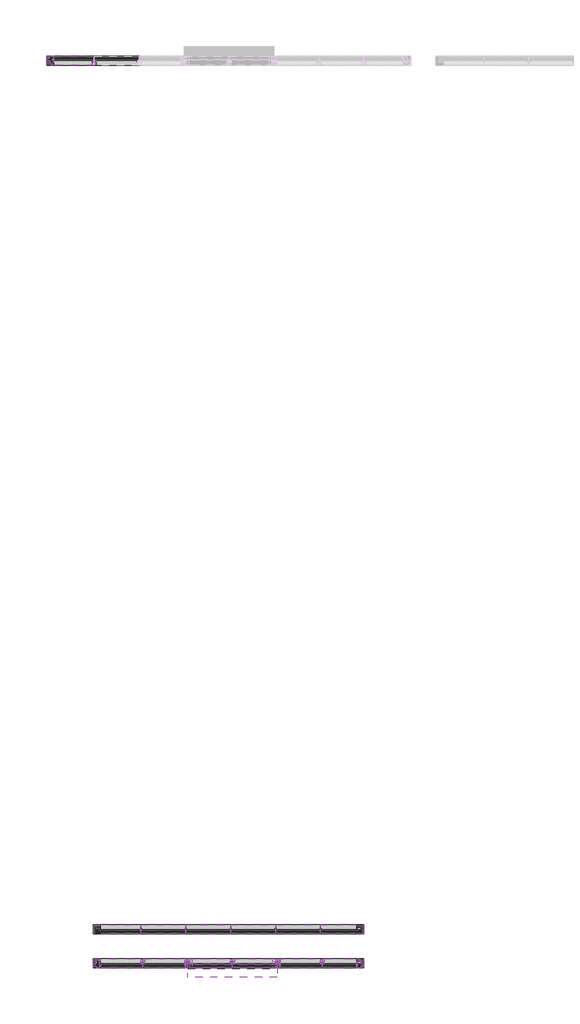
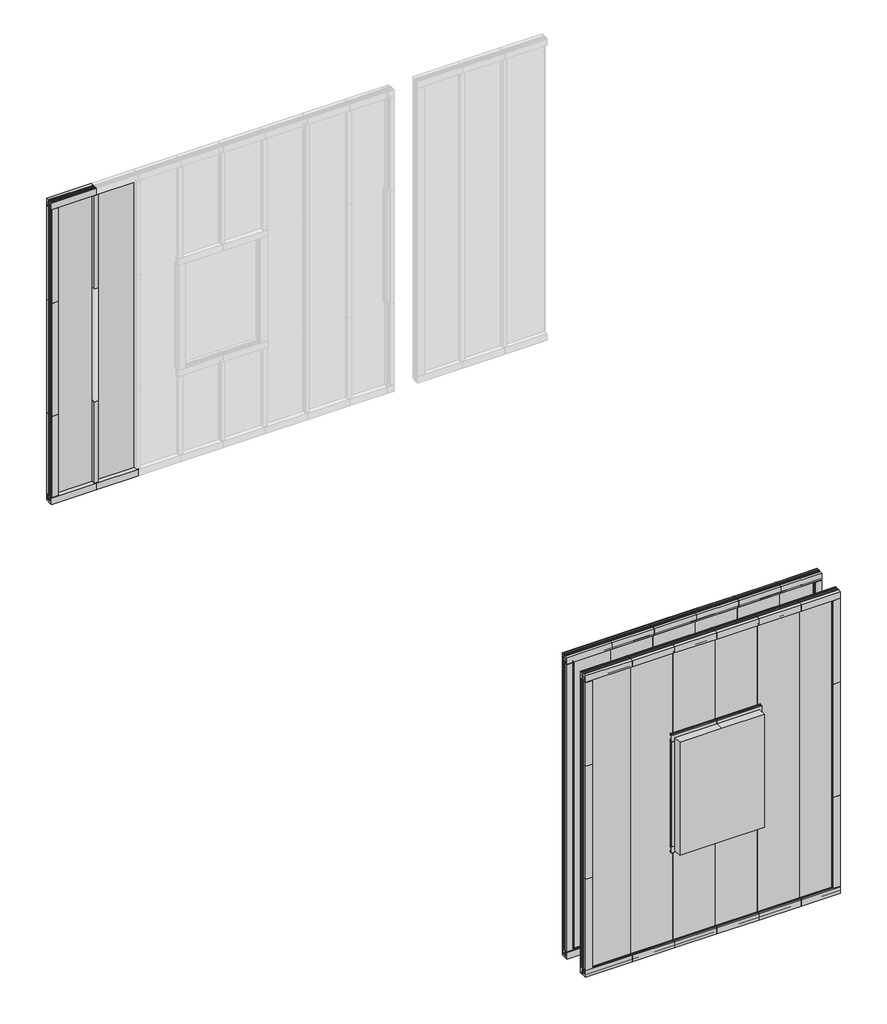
# One storey, part 1 of 2: 63 members, 17 plates.
"""IFC4 building model written with IfcOpenShell, lengths in millimetres."""

from ifc_helpers import new_model, si_unit, origin, place, context, project, spatial, transform, mapped, element, save
from components import rectangular_mullion_56370f76, rectangular_mullion_29f6557c, rectangular_mullion_5ac9c958, rectangular_mullion_ad8a2e70, rectangular_mullion_d8502604, rectangular_mullion_7f4c8c78, rectangular_mullion_d2c126c3, rectangular_mullion_4e418ae6, rectangular_mullion_074f1e92, rectangular_mullion_df59eadc, rectangular_mullion_0bb142bf, rectangular_mullion_5c33d273, rectangular_mullion_d28546ff, rectangular_mullion_ca9a3e23, rectangular_mullion_d4e17fa0, rectangular_mullion_b07ed6fc, rectangular_mullion_49af61fe, rectangular_mullion_012c2512, rectangular_mullion_15cd0707, rectangular_mullion_bf5c6ae6, rectangular_mullion_05272e8f, rectangular_mullion_a8a568d6, rectangular_mullion_99edbb54, rectangular_mullion_0c1c3824, rectangular_mullion_da8ff875, rectangular_mullion_25efc16a, plate_366c9034, plate_11f4e84c, plate_dcdef4b8, plate_09bead92, plate_f91dd126, plate_4c6f184a, plate_0ac376f9, plate_f3157e7b, empty_system_panel_empty_e7d6fffa

model = new_model("IFC4")

# Units and contexts
model_context = context("Model", 3, world=origin())
ifc_project = project(units=[si_unit("LENGTHUNIT", "METRE", prefix="MILLI")], contexts=[model_context])

# Site, building, storey
site = spatial("IfcSite", under=ifc_project)
building = spatial("IfcBuilding", under=site)
storey = spatial("IfcBuildingStorey", under=building, Name="Danpal - AIRPT", Elevation=0.0)

# Members
placement = place(None, origin())
rectangular_mullion_shape = rectangular_mullion_56370f76(model_context)
element("IfcMember", 1, ObjectType="Rectangular Mullion : Danpal_Airpt_End-Mullion_B1", at=placement, inside=storey, context=model_context, shape_type="MappedRepresentation", body=[
    mapped(rectangular_mullion_shape, transform((1250.65036, 2317.5512666, 0.0), x_axis=(0.0, 0.0, -1.0), y_axis=(0.0, -1.0, 0.0), z_axis=(-1.0, 0.0, 0.0))),
])
element("IfcMember", 2, ObjectType="Rectangular Mullion : Danpal_Airpt_End-Mullion_B1", at=placement, inside=storey, context=model_context, shape_type="MappedRepresentation", body=[
    mapped(rectangular_mullion_shape, transform((1780.85036, 2317.5512666, 0.0), x_axis=(0.0, 0.0, -1.0), y_axis=(0.0, -1.0, 0.0), z_axis=(-1.0, 0.0, 0.0))),
])
element("IfcMember", 3, ObjectType="Rectangular Mullion : Danpal_Airpt_End-Mullion_B1", at=placement, inside=storey, context=model_context, shape_type="MappedRepresentation", body=[
    mapped(rectangular_mullion_shape, transform((2311.05036, 2317.5512666, 0.0), x_axis=(0.0, 0.0, -1.0), y_axis=(0.0, -1.0, 0.0), z_axis=(-1.0, 0.0, 0.0))),
])
element("IfcMember", 4, ObjectType="Rectangular Mullion : Danpal_Airpt_End-Mullion_B1", at=placement, inside=storey, context=model_context, shape_type="MappedRepresentation", body=[
    mapped(rectangular_mullion_shape, transform((2841.25036, 2317.5512666, 0.0), x_axis=(0.0, 0.0, -1.0), y_axis=(0.0, -1.0, 0.0), z_axis=(-1.0, 0.0, 0.0))),
])
element("IfcMember", 5, ObjectType="Rectangular Mullion : Danpal_Airpt_End-Mullion_B1", at=placement, inside=storey, context=model_context, shape_type="MappedRepresentation", body=[
    mapped(rectangular_mullion_shape, transform((1229.6337657, 2717.5512666, 0.0), x_axis=(0.0, 0.0, -1.0), y_axis=(0.0, -1.0, 0.0), z_axis=(-1.0, 0.0, 0.0))),
])
element("IfcMember", 6, ObjectType="Rectangular Mullion : Danpal_Airpt_End-Mullion_B1", at=placement, inside=storey, context=model_context, shape_type="MappedRepresentation", body=[
    mapped(rectangular_mullion_shape, transform((1759.8337657, 2717.5512666, 0.0), x_axis=(0.0, 0.0, -1.0), y_axis=(0.0, -1.0, 0.0), z_axis=(-1.0, 0.0, 0.0))),
])
element("IfcMember", 7, ObjectType="Rectangular Mullion : Danpal_Airpt_End-Mullion_B1", at=placement, inside=storey, context=model_context, shape_type="MappedRepresentation", body=[
    mapped(rectangular_mullion_shape, transform((2290.0337657, 2717.5512666, 0.0), x_axis=(0.0, 0.0, -1.0), y_axis=(0.0, -1.0, 0.0), z_axis=(-1.0, 0.0, 0.0))),
])
element("IfcMember", 8, ObjectType="Rectangular Mullion : Danpal_Airpt_End-Mullion_B1", at=placement, inside=storey, context=model_context, shape_type="MappedRepresentation", body=[
    mapped(rectangular_mullion_shape, transform((2820.2337657, 2717.5512666, 0.0), x_axis=(0.0, 0.0, -1.0), y_axis=(0.0, -1.0, 0.0), z_axis=(-1.0, 0.0, 0.0))),
])
element("IfcMember", 9, ObjectType="Rectangular Mullion : Danpal_Airpt_End-Mullion_B2", at=placement, inside=storey, context=model_context, shape_type="MappedRepresentation", body=[
    mapped(rectangular_mullion_shape, transform((1780.85036, 2317.5512666, 4000.0), x_axis=(0.0, 0.0, 1.0), y_axis=(0.0, -1.0, 0.0), z_axis=(1.0, 0.0, 0.0))),
])
element("IfcMember", 10, ObjectType="Rectangular Mullion : Danpal_Airpt_End-Mullion_B2", at=placement, inside=storey, context=model_context, shape_type="MappedRepresentation", body=[
    mapped(rectangular_mullion_shape, transform((2311.05036, 2317.5512666, 4000.0), x_axis=(0.0, 0.0, 1.0), y_axis=(0.0, -1.0, 0.0), z_axis=(1.0, 0.0, 0.0))),
])
element("IfcMember", 11, ObjectType="Rectangular Mullion : Danpal_Airpt_End-Mullion_B2", at=placement, inside=storey, context=model_context, shape_type="MappedRepresentation", body=[
    mapped(rectangular_mullion_shape, transform((2841.25036, 2317.5512666, 4000.0), x_axis=(0.0, 0.0, 1.0), y_axis=(0.0, -1.0, 0.0), z_axis=(1.0, 0.0, 0.0))),
])
element("IfcMember", 12, ObjectType="Rectangular Mullion : Danpal_Airpt_End-Mullion_B2", at=placement, inside=storey, context=model_context, shape_type="MappedRepresentation", body=[
    mapped(rectangular_mullion_shape, transform((3371.45036, 2317.5512666, 4000.0), x_axis=(0.0, 0.0, 1.0), y_axis=(0.0, -1.0, 0.0), z_axis=(1.0, 0.0, 0.0))),
])
element("IfcMember", 13, ObjectType="Rectangular Mullion : Danpal_Airpt_End-Mullion_B2", at=placement, inside=storey, context=model_context, shape_type="MappedRepresentation", body=[
    mapped(rectangular_mullion_shape, transform((1759.8337657, 2717.5512666, 4000.0), x_axis=(0.0, 0.0, 1.0), y_axis=(0.0, -1.0, 0.0), z_axis=(1.0, 0.0, 0.0))),
])
element("IfcMember", 14, ObjectType="Rectangular Mullion : Danpal_Airpt_End-Mullion_B2", at=placement, inside=storey, context=model_context, shape_type="MappedRepresentation", body=[
    mapped(rectangular_mullion_shape, transform((2290.0337657, 2717.5512666, 4000.0), x_axis=(0.0, 0.0, 1.0), y_axis=(0.0, -1.0, 0.0), z_axis=(1.0, 0.0, 0.0))),
])
element("IfcMember", 15, ObjectType="Rectangular Mullion : Danpal_Airpt_End-Mullion_B2", at=placement, inside=storey, context=model_context, shape_type="MappedRepresentation", body=[
    mapped(rectangular_mullion_shape, transform((2820.2337657, 2717.5512666, 4000.0), x_axis=(0.0, 0.0, 1.0), y_axis=(0.0, -1.0, 0.0), z_axis=(1.0, 0.0, 0.0))),
])
element("IfcMember", 16, ObjectType="Rectangular Mullion : Danpal_Airpt_End-Mullion_B2", at=placement, inside=storey, context=model_context, shape_type="MappedRepresentation", body=[
    mapped(rectangular_mullion_shape, transform((3350.4337657, 2717.5512666, 4000.0), x_axis=(0.0, 0.0, 1.0), y_axis=(0.0, -1.0, 0.0), z_axis=(1.0, 0.0, 0.0))),
])
rectangular_mullion_2_shape = rectangular_mullion_29f6557c(model_context)
element("IfcMember", 17, ObjectType="Rectangular Mullion : Danpal_Airpt", at=placement, inside=storey, context=model_context, shape_type="MappedRepresentation", body=[
    mapped(rectangular_mullion_2_shape, transform((1250.65036, 2317.5512666, 2800.0), x_axis=(1.0, 0.0, 0.0), y_axis=(0.0, -1.0, 0.0), z_axis=(0.0, 0.0, -1.0))),
])
element("IfcMember", 18, ObjectType="Rectangular Mullion : Danpal_Airpt", at=placement, inside=storey, context=model_context, shape_type="MappedRepresentation", body=[
    mapped(rectangular_mullion_2_shape, transform((3371.45036, 2317.5512666, 2800.0), x_axis=(1.0, 0.0, 0.0), y_axis=(0.0, -1.0, 0.0), z_axis=(0.0, 0.0, -1.0))),
])
rectangular_mullion_3_shape = rectangular_mullion_5ac9c958(model_context)
element("IfcMember", 19, ObjectType="Rectangular Mullion : Danpal_Airpt_End-Mullion_B1", at=placement, inside=storey, context=model_context, shape_type="MappedRepresentation", body=[
    mapped(rectangular_mullion_3_shape, transform((664.2822678, 2317.5512666, 3908.6804098), x_axis=(-1.0, 0.0, 0.0), y_axis=(0.0, -1.0, 0.0), z_axis=(0.0, 0.0, 1.0))),
])
rectangular_mullion_4_shape = rectangular_mullion_ad8a2e70(model_context)
element("IfcMember", 20, ObjectType="Rectangular Mullion : Danpal_Airpt", at=placement, inside=storey, context=model_context, shape_type="MappedRepresentation", body=[
    mapped(rectangular_mullion_4_shape, transform((1250.65036, 2317.5512666, 91.3195902), x_axis=(1.0, 0.0, 0.0), y_axis=(0.0, -1.0, 0.0), z_axis=(0.0, 0.0, -1.0))),
])
element("IfcMember", 21, ObjectType="Rectangular Mullion : Danpal_Airpt", at=placement, inside=storey, context=model_context, shape_type="MappedRepresentation", body=[
    mapped(rectangular_mullion_4_shape, transform((3371.45036, 2317.5512666, 91.3195902), x_axis=(1.0, 0.0, 0.0), y_axis=(0.0, -1.0, 0.0), z_axis=(0.0, 0.0, -1.0))),
])
rectangular_mullion_5_shape = rectangular_mullion_d8502604(model_context)
element("IfcMember", 22, ObjectType="Rectangular Mullion : Danpal_Airpt", at=placement, inside=storey, context=model_context, shape_type="MappedRepresentation", body=[
    mapped(rectangular_mullion_5_shape, transform((1250.65036, 2317.5512666, 1300.0), x_axis=(1.0, 0.0, 0.0), y_axis=(0.0, -1.0, 0.0), z_axis=(0.0, 0.0, -1.0))),
])
element("IfcMember", 23, ObjectType="Rectangular Mullion : Danpal_Airpt", at=placement, inside=storey, context=model_context, shape_type="MappedRepresentation", body=[
    mapped(rectangular_mullion_5_shape, transform((3371.45036, 2317.5512666, 1300.0), x_axis=(1.0, 0.0, 0.0), y_axis=(0.0, -1.0, 0.0), z_axis=(0.0, 0.0, -1.0))),
])
rectangular_mullion_6_shape = rectangular_mullion_7f4c8c78(model_context)
element("IfcMember", 24, ObjectType="Rectangular Mullion : Danpal_Airpt_End-Mullion_B1", at=placement, inside=storey, context=model_context, shape_type="MappedRepresentation", body=[
    mapped(rectangular_mullion_6_shape, transform((664.2822678, 2317.5512666, 2800.0), x_axis=(-1.0, 0.0, 0.0), y_axis=(0.0, -1.0, 0.0), z_axis=(0.0, 0.0, 1.0))),
])
element("IfcMember", 25, ObjectType="Rectangular Mullion : Danpal_Airpt_End-Mullion_B2", at=placement, inside=storey, context=model_context, shape_type="MappedRepresentation", body=[
    mapped(rectangular_mullion_6_shape, transform((3864.2822678, 2317.5512666, 1300.0), x_axis=(1.0, 0.0, 0.0), y_axis=(0.0, -1.0, 0.0), z_axis=(0.0, 0.0, -1.0))),
])
rectangular_mullion_7_shape = rectangular_mullion_d2c126c3(model_context)
element("IfcMember", 26, ObjectType="Rectangular Mullion : Danpal_Airpt_End-Mullion_B1", at=placement, inside=storey, context=model_context, shape_type="MappedRepresentation", body=[
    mapped(rectangular_mullion_7_shape, transform((664.2822678, 2317.5512666, 1300.0), x_axis=(-1.0, 0.0, 0.0), y_axis=(0.0, -1.0, 0.0), z_axis=(0.0, 0.0, 1.0))),
])
element("IfcMember", 27, ObjectType="Rectangular Mullion : Danpal_Airpt_End-Mullion_B2", at=placement, inside=storey, context=model_context, shape_type="MappedRepresentation", body=[
    mapped(rectangular_mullion_7_shape, transform((3864.2822678, 2317.5512666, 91.3195902), x_axis=(1.0, 0.0, 0.0), y_axis=(0.0, -1.0, 0.0), z_axis=(0.0, 0.0, -1.0))),
])
element("IfcMember", 28, ObjectType="Rectangular Mullion : Danpal_Airpt_End-Mullion_B2", at=placement, inside=storey, context=model_context, shape_type="MappedRepresentation", body=[
    mapped(rectangular_mullion_3_shape, transform((3864.2822678, 2317.5512666, 2800.0), x_axis=(1.0, 0.0, 0.0), y_axis=(0.0, -1.0, 0.0), z_axis=(0.0, 0.0, -1.0))),
])
rectangular_mullion_8_shape = rectangular_mullion_4e418ae6(model_context)
element("IfcMember", 29, ObjectType="Rectangular Mullion : Danpal_Airpt_End-Mullion_B2", at=placement, inside=storey, context=model_context, shape_type="MappedRepresentation", body=[
    mapped(rectangular_mullion_8_shape, transform((1250.65036, 2317.5512666, 4000.0), x_axis=(0.0, 0.0, 1.0), y_axis=(0.0, -1.0, 0.0), z_axis=(1.0, 0.0, 0.0))),
])
element("IfcMember", 30, ObjectType="Rectangular Mullion : Danpal_Airpt_End-Mullion_B1", at=placement, inside=storey, context=model_context, shape_type="MappedRepresentation", body=[
    mapped(rectangular_mullion_8_shape, transform((664.2822678, 2317.5512666, 0.0), x_axis=(0.0, 0.0, -1.0), y_axis=(0.0, -1.0, 0.0), z_axis=(-1.0, 0.0, 0.0))),
])
rectangular_mullion_9_shape = rectangular_mullion_074f1e92(model_context)
element("IfcMember", 31, ObjectType="Rectangular Mullion : Danpal_Airpt_End-Mullion_B2", at=placement, inside=storey, context=model_context, shape_type="MappedRepresentation", body=[
    mapped(rectangular_mullion_9_shape, transform((3864.2822678, 2317.5512666, 4000.0), x_axis=(0.0, 0.0, 1.0), y_axis=(0.0, -1.0, 0.0), z_axis=(1.0, 0.0, 0.0))),
])
element("IfcMember", 32, ObjectType="Rectangular Mullion : Danpal_Airpt_End-Mullion_B1", at=placement, inside=storey, context=model_context, shape_type="MappedRepresentation", body=[
    mapped(rectangular_mullion_9_shape, transform((3371.45036, 2317.5512666, 0.0), x_axis=(0.0, 0.0, -1.0), y_axis=(0.0, -1.0, 0.0), z_axis=(-1.0, 0.0, 0.0))),
])
rectangular_mullion_10_shape = rectangular_mullion_df59eadc(model_context)
element("IfcMember", 33, ObjectType="Rectangular Mullion : Danpal_Airpt", at=placement, inside=storey, context=model_context, shape_type="MappedRepresentation", body=[
    mapped(rectangular_mullion_10_shape, transform((1780.85036, 2317.5512666, 91.3195902), x_axis=(1.0, 0.0, 0.0), y_axis=(0.0, -1.0, 0.0), z_axis=(0.0, 0.0, -1.0))),
])
element("IfcMember", 34, ObjectType="Rectangular Mullion : Danpal_Airpt", at=placement, inside=storey, context=model_context, shape_type="MappedRepresentation", body=[
    mapped(rectangular_mullion_10_shape, transform((2311.05036, 2317.5512666, 91.3195902), x_axis=(1.0, 0.0, 0.0), y_axis=(0.0, -1.0, 0.0), z_axis=(0.0, 0.0, -1.0))),
])
element("IfcMember", 35, ObjectType="Rectangular Mullion : Danpal_Airpt", at=placement, inside=storey, context=model_context, shape_type="MappedRepresentation", body=[
    mapped(rectangular_mullion_10_shape, transform((2841.25036, 2317.5512666, 91.3195902), x_axis=(1.0, 0.0, 0.0), y_axis=(0.0, -1.0, 0.0), z_axis=(0.0, 0.0, -1.0))),
])
rectangular_mullion_11_shape = rectangular_mullion_0bb142bf(model_context)
element("IfcMember", 36, ObjectType="Rectangular Mullion : Danpal_Airpt", at=placement, inside=storey, context=model_context, shape_type="MappedRepresentation", body=[
    mapped(rectangular_mullion_11_shape, transform((1780.85036, 2317.5512666, 2835.1514979), x_axis=(1.0, 0.0, 0.0), y_axis=(0.0, -1.0, 0.0), z_axis=(0.0, 0.0, -1.0))),
])
element("IfcMember", 37, ObjectType="Rectangular Mullion : Danpal_Airpt", at=placement, inside=storey, context=model_context, shape_type="MappedRepresentation", body=[
    mapped(rectangular_mullion_11_shape, transform((2311.05036, 2317.5512666, 2835.1514979), x_axis=(1.0, 0.0, 0.0), y_axis=(0.0, -1.0, 0.0), z_axis=(0.0, 0.0, -1.0))),
])
element("IfcMember", 38, ObjectType="Rectangular Mullion : Danpal_Airpt", at=placement, inside=storey, context=model_context, shape_type="MappedRepresentation", body=[
    mapped(rectangular_mullion_11_shape, transform((2841.25036, 2317.5512666, 2835.1514979), x_axis=(1.0, 0.0, 0.0), y_axis=(0.0, -1.0, 0.0), z_axis=(0.0, 0.0, -1.0))),
])
rectangular_mullion_12_shape = rectangular_mullion_5c33d273(model_context)
element("IfcMember", 39, ObjectType="Rectangular Mullion : Danpal_Airpt_End-Mullion_B1", at=placement, inside=storey, context=model_context, shape_type="MappedRepresentation", body=[
    mapped(rectangular_mullion_12_shape, transform((2841.25036, 2317.5512666, 1356.1680922), x_axis=(1.0, 0.0, 0.0), y_axis=(0.0, -1.0, 0.0), z_axis=(0.0, 0.0, -1.0))),
])
rectangular_mullion_13_shape = rectangular_mullion_d28546ff(model_context)
element("IfcMember", 40, ObjectType="Rectangular Mullion : Danpal_Airpt_End-Mullion_B2", at=placement, inside=storey, context=model_context, shape_type="MappedRepresentation", body=[
    mapped(rectangular_mullion_13_shape, transform((2876.4018579, 2317.5512666, 1300.0), x_axis=(0.0, 0.0, 1.0), y_axis=(0.0, -1.0, 0.0), z_axis=(1.0, 0.0, 0.0))),
])
rectangular_mullion_14_shape = rectangular_mullion_ca9a3e23(model_context)
element("IfcMember", 41, ObjectType="Rectangular Mullion : Danpal_Airpt_End-Mullion_B1", at=placement, inside=storey, context=model_context, shape_type="MappedRepresentation", body=[
    mapped(rectangular_mullion_14_shape, transform((2876.4018579, 2317.5512666, 2800.0), x_axis=(0.0, 0.0, 1.0), y_axis=(0.0, -1.0, 0.0), z_axis=(1.0, 0.0, 0.0))),
])
element("IfcMember", 42, ObjectType="Rectangular Mullion : Danpal_Airpt_End-Mullion_B2", at=placement, inside=storey, context=model_context, shape_type="MappedRepresentation", body=[
    mapped(rectangular_mullion_13_shape, transform((2311.05036, 2317.5512666, 1300.0), x_axis=(0.0, 0.0, 1.0), y_axis=(0.0, -1.0, 0.0), z_axis=(1.0, 0.0, 0.0))),
])
element("IfcMember", 43, ObjectType="Rectangular Mullion : Danpal_Airpt_End-Mullion_B1", at=placement, inside=storey, context=model_context, shape_type="MappedRepresentation", body=[
    mapped(rectangular_mullion_14_shape, transform((2311.05036, 2317.5512666, 2800.0), x_axis=(0.0, 0.0, 1.0), y_axis=(0.0, -1.0, 0.0), z_axis=(1.0, 0.0, 0.0))),
])
rectangular_mullion_15_shape = rectangular_mullion_d4e17fa0(model_context)
element("IfcMember", 44, ObjectType="Rectangular Mullion : Danpal_Airpt_End-Mullion_B2", at=placement, inside=storey, context=model_context, shape_type="MappedRepresentation", body=[
    mapped(rectangular_mullion_15_shape, transform((1780.85036, 2317.5512666, 1356.1680922), x_axis=(1.0, 0.0, 0.0), y_axis=(0.0, -1.0, 0.0), z_axis=(0.0, 0.0, -1.0))),
])
rectangular_mullion_16_shape = rectangular_mullion_b07ed6fc(model_context)
element("IfcMember", 45, ObjectType="Rectangular Mullion : Danpal_Airpt_End-Mullion_B2", at=placement, inside=storey, context=model_context, shape_type="MappedRepresentation", body=[
    mapped(rectangular_mullion_16_shape, transform((1229.6337657, 2717.5512666, 4000.0), x_axis=(0.0, 0.0, 1.0), y_axis=(0.0, -1.0, 0.0), z_axis=(1.0, 0.0, 0.0))),
])
element("IfcMember", 46, ObjectType="Rectangular Mullion : Danpal_Airpt_End-Mullion_B1", at=placement, inside=storey, context=model_context, shape_type="MappedRepresentation", body=[
    mapped(rectangular_mullion_16_shape, transform((664.2822678, 2717.5512666, 0.0), x_axis=(0.0, 0.0, -1.0), y_axis=(0.0, -1.0, 0.0), z_axis=(-1.0, 0.0, 0.0))),
])
rectangular_mullion_17_shape = rectangular_mullion_49af61fe(model_context)
element("IfcMember", 47, ObjectType="Rectangular Mullion : Danpal_Airpt_End-Mullion_B1", at=placement, inside=storey, context=model_context, shape_type="MappedRepresentation", body=[
    mapped(rectangular_mullion_17_shape, transform((3350.4337657, 2717.5512666, 0.0), x_axis=(0.0, 0.0, -1.0), y_axis=(0.0, -1.0, 0.0), z_axis=(-1.0, 0.0, 0.0))),
])
rectangular_mullion_18_shape = rectangular_mullion_012c2512(model_context)
element("IfcMember", 48, ObjectType="Rectangular Mullion : Danpal_Airpt", at=placement, inside=storey, context=model_context, shape_type="MappedRepresentation", body=[
    mapped(rectangular_mullion_18_shape, transform((1229.6337657, 2717.5512666, 91.3195902), x_axis=(1.0, 0.0, 0.0), y_axis=(0.0, -1.0, 0.0), z_axis=(0.0, 0.0, -1.0))),
])
element("IfcMember", 49, ObjectType="Rectangular Mullion : Danpal_Airpt", at=placement, inside=storey, context=model_context, shape_type="MappedRepresentation", body=[
    mapped(rectangular_mullion_18_shape, transform((1759.8337657, 2717.5512666, 91.3195902), x_axis=(1.0, 0.0, 0.0), y_axis=(0.0, -1.0, 0.0), z_axis=(0.0, 0.0, -1.0))),
])
element("IfcMember", 50, ObjectType="Rectangular Mullion : Danpal_Airpt", at=placement, inside=storey, context=model_context, shape_type="MappedRepresentation", body=[
    mapped(rectangular_mullion_18_shape, transform((2290.0337657, 2717.5512666, 91.3195902), x_axis=(1.0, 0.0, 0.0), y_axis=(0.0, -1.0, 0.0), z_axis=(0.0, 0.0, -1.0))),
])
element("IfcMember", 51, ObjectType="Rectangular Mullion : Danpal_Airpt", at=placement, inside=storey, context=model_context, shape_type="MappedRepresentation", body=[
    mapped(rectangular_mullion_18_shape, transform((2820.2337657, 2717.5512666, 91.3195902), x_axis=(1.0, 0.0, 0.0), y_axis=(0.0, -1.0, 0.0), z_axis=(0.0, 0.0, -1.0))),
])
element("IfcMember", 52, ObjectType="Rectangular Mullion : Danpal_Airpt", at=placement, inside=storey, context=model_context, shape_type="MappedRepresentation", body=[
    mapped(rectangular_mullion_18_shape, transform((3350.4337657, 2717.5512666, 91.3195902), x_axis=(1.0, 0.0, 0.0), y_axis=(0.0, -1.0, 0.0), z_axis=(0.0, 0.0, -1.0))),
])
element("IfcMember", 53, ObjectType="Rectangular Mullion : Danpal_Airpt_End-Mullion_B2", at=placement, inside=storey, context=model_context, shape_type="MappedRepresentation", body=[
    mapped(rectangular_mullion_17_shape, transform((3864.2822678, 2717.5512666, 4000.0), x_axis=(0.0, 0.0, 1.0), y_axis=(0.0, -1.0, 0.0), z_axis=(1.0, 0.0, 0.0))),
])
rectangular_mullion_19_shape = rectangular_mullion_15cd0707(model_context)
element("IfcMember", 54, ObjectType="Rectangular Mullion : Danpal_Airpt_End-Mullion_B2", at=placement, inside=storey, context=model_context, shape_type="MappedRepresentation", body=[
    mapped(rectangular_mullion_19_shape, transform((3864.2822678, 2717.5512666, 91.3195902), x_axis=(1.0, 0.0, 0.0), y_axis=(0.0, -1.0, 0.0), z_axis=(0.0, 0.0, -1.0))),
])
element("IfcMember", 55, ObjectType="Rectangular Mullion : Danpal_Airpt_End-Mullion_B1", at=placement, inside=storey, context=model_context, shape_type="MappedRepresentation", body=[
    mapped(rectangular_mullion_19_shape, transform((664.2822678, 2717.5512666, 3908.6804098), x_axis=(-1.0, 0.0, 0.0), y_axis=(0.0, -1.0, 0.0), z_axis=(0.0, 0.0, 1.0))),
])
rectangular_mullion_20_shape = rectangular_mullion_bf5c6ae6(model_context)
element("IfcMember", 56, ObjectType="Rectangular Mullion : Danpal_Airpt", at=placement, inside=storey, context=model_context, shape_type="MappedRepresentation", body=[
    mapped(rectangular_mullion_20_shape, transform((679.6337657, 13017.5512666, 91.3195902), x_axis=(1.0, 0.0, 0.0), y_axis=(0.0, -1.0, 0.0), z_axis=(0.0, 0.0, -1.0))),
])
rectangular_mullion_21_shape = rectangular_mullion_05272e8f(model_context)
element("IfcMember", 57, ObjectType="Rectangular Mullion : Danpal_Airpt_End-Mullion_B1", at=placement, inside=storey, context=model_context, shape_type="MappedRepresentation", body=[
    mapped(rectangular_mullion_21_shape, transform((114.2822678, 13017.5512666, 0.0), x_axis=(0.0, 0.0, -1.0), y_axis=(0.0, -1.0, 0.0), z_axis=(-1.0, 0.0, 0.0))),
])
rectangular_mullion_22_shape = rectangular_mullion_a8a568d6(model_context)
element("IfcMember", 58, ObjectType="Rectangular Mullion : Danpal_Airpt_End-Mullion_B1", at=placement, inside=storey, context=model_context, shape_type="MappedRepresentation", body=[
    mapped(rectangular_mullion_22_shape, transform((679.6337657, 13017.5512666, 0.0), x_axis=(0.0, 0.0, -1.0), y_axis=(0.0, -1.0, 0.0), z_axis=(-1.0, 0.0, 0.0))),
])
element("IfcMember", 59, ObjectType="Rectangular Mullion : Danpal_Airpt_End-Mullion_B2", at=placement, inside=storey, context=model_context, shape_type="MappedRepresentation", body=[
    mapped(rectangular_mullion_21_shape, transform((679.6337657, 13017.5512666, 4000.0), x_axis=(0.0, 0.0, 1.0), y_axis=(0.0, -1.0, 0.0), z_axis=(1.0, 0.0, 0.0))),
])
rectangular_mullion_23_shape = rectangular_mullion_99edbb54(model_context)
element("IfcMember", 60, ObjectType="Rectangular Mullion : Danpal_Airpt", at=placement, inside=storey, context=model_context, shape_type="MappedRepresentation", body=[
    mapped(rectangular_mullion_23_shape, transform((679.6337657, 13017.5512666, 2666.6666667), x_axis=(1.0, 0.0, 0.0), y_axis=(0.0, -1.0, 0.0), z_axis=(0.0, 0.0, -1.0))),
])
rectangular_mullion_24_shape = rectangular_mullion_0c1c3824(model_context)
element("IfcMember", 61, ObjectType="Rectangular Mullion : Danpal_Airpt_End-Mullion_B1", at=placement, inside=storey, context=model_context, shape_type="MappedRepresentation", body=[
    mapped(rectangular_mullion_24_shape, transform((114.2822678, 13017.5512666, 3908.6804098), x_axis=(-1.0, 0.0, 0.0), y_axis=(0.0, -1.0, 0.0), z_axis=(0.0, 0.0, 1.0))),
])
rectangular_mullion_25_shape = rectangular_mullion_da8ff875(model_context)
element("IfcMember", 62, ObjectType="Rectangular Mullion : Danpal_Airpt_End-Mullion_B1", at=placement, inside=storey, context=model_context, shape_type="MappedRepresentation", body=[
    mapped(rectangular_mullion_25_shape, transform((114.2822678, 13017.5512666, 2666.6666667), x_axis=(-1.0, 0.0, 0.0), y_axis=(0.0, -1.0, 0.0), z_axis=(0.0, 0.0, 1.0))),
])
rectangular_mullion_26_shape = rectangular_mullion_25efc16a(model_context)
element("IfcMember", 63, ObjectType="Rectangular Mullion : Danpal_Airpt_End-Mullion_B1", at=placement, inside=storey, context=model_context, shape_type="MappedRepresentation", body=[
    mapped(rectangular_mullion_26_shape, transform((114.2822678, 13017.5512666, 1166.6666667), x_axis=(-1.0, 0.0, 0.0), y_axis=(0.0, -1.0, 0.0), z_axis=(0.0, 0.0, 1.0))),
])

# Plates
plate_shape = plate_366c9034(model_context)
element("IfcPlate", 64, ObjectType="Walls_Curtain-Walls_Danpal_AIRPT : Walls_Curtain-Walls_Danpal_AIRPT", at=placement, inside=storey, context=model_context, shape_type="MappedRepresentation", body=[
    mapped(plate_shape, transform((2045.95036, 2317.5512666, 56.1680922), x_axis=(1.0, 0.0, 0.0), y_axis=(0.0, 1.0, 0.0), z_axis=(0.0, 0.0, 1.0))),
])
element("IfcPlate", 65, ObjectType="Walls_Curtain-Walls_Danpal_AIRPT : Walls_Curtain-Walls_Danpal_AIRPT", at=placement, inside=storey, context=model_context, shape_type="MappedRepresentation", body=[
    mapped(plate_shape, transform((2576.15036, 2317.5512666, 56.1680922), x_axis=(1.0, 0.0, 0.0), y_axis=(0.0, 1.0, 0.0), z_axis=(0.0, 0.0, 1.0))),
])
plate_2_shape = plate_11f4e84c(model_context)
element("IfcPlate", 66, ObjectType="Walls_Curtain-Walls_Danpal_AIRPT : Walls_Curtain-Walls_Danpal_AIRPT", at=placement, inside=storey, context=model_context, shape_type="MappedRepresentation", body=[
    mapped(plate_2_shape, transform((3106.35036, 2317.5512666, 56.1680922), x_axis=(1.0, 0.0, 0.0), y_axis=(0.0, 1.0, 0.0), z_axis=(0.0, 0.0, 1.0))),
])
element("IfcPlate", 67, ObjectType="Walls_Curtain-Walls_Danpal_AIRPT : Walls_Curtain-Walls_Danpal_AIRPT", at=placement, inside=storey, context=model_context, shape_type="MappedRepresentation", body=[
    mapped(plate_2_shape, transform((985.55036, 2317.5512666, 56.1680922), x_axis=(1.0, 0.0, 0.0), y_axis=(0.0, 1.0, 0.0), z_axis=(0.0, 0.0, 1.0))),
])
element("IfcPlate", 68, ObjectType="Walls_Curtain-Walls_Danpal_AIRPT : Walls_Curtain-Walls_Danpal_AIRPT", at=placement, inside=storey, context=model_context, shape_type="MappedRepresentation", body=[
    mapped(plate_2_shape, transform((1515.75036, 2317.5512666, 56.1680922), x_axis=(1.0, 0.0, 0.0), y_axis=(0.0, 1.0, 0.0), z_axis=(0.0, 0.0, 1.0))),
])
plate_3_shape = plate_dcdef4b8(model_context)
element("IfcPlate", 69, ObjectType="Walls_Curtain-Walls_Danpal_AIRPT : Walls_Curtain-Walls_Danpal_AIRPT", at=placement, inside=storey, context=model_context, shape_type="MappedRepresentation", body=[
    mapped(plate_3_shape, transform((3589.7822678, 2317.5512666, 56.1680922), x_axis=(1.0, 0.0, 0.0), y_axis=(0.0, 1.0, 0.0), z_axis=(0.0, 0.0, 1.0))),
])
plate_4_shape = plate_09bead92(model_context)
element("IfcPlate", 70, ObjectType="Walls_Curtain-Walls_Danpal_AIRPT : Walls_Curtain-Walls_Danpal_AIRPT", at=placement, inside=storey, context=model_context, shape_type="MappedRepresentation", body=[
    mapped(plate_4_shape, transform((2045.95036, 2317.5512666, 2800.0), x_axis=(1.0, 0.0, 0.0), y_axis=(0.0, 1.0, 0.0), z_axis=(0.0, 0.0, 1.0))),
])
element("IfcPlate", 71, ObjectType="Walls_Curtain-Walls_Danpal_AIRPT : Walls_Curtain-Walls_Danpal_AIRPT", at=placement, inside=storey, context=model_context, shape_type="MappedRepresentation", body=[
    mapped(plate_4_shape, transform((2576.15036, 2317.5512666, 2800.0), x_axis=(1.0, 0.0, 0.0), y_axis=(0.0, 1.0, 0.0), z_axis=(0.0, 0.0, 1.0))),
])
plate_5_shape = plate_f91dd126(model_context)
element("IfcPlate", 72, ObjectType="Walls_Curtain-Walls_Danpal_AIRPT : Walls_Curtain-Walls_Danpal_AIRPT", at=placement, inside=storey, context=model_context, shape_type="MappedRepresentation", body=[
    mapped(plate_5_shape, transform((975.0420629, 2717.5512666, 56.1680922), x_axis=(1.0, 0.0, 0.0), y_axis=(0.0, 1.0, 0.0), z_axis=(0.0, 0.0, 1.0))),
])
element("IfcPlate", 73, ObjectType="Walls_Curtain-Walls_Danpal_AIRPT : Walls_Curtain-Walls_Danpal_AIRPT", at=placement, inside=storey, context=model_context, shape_type="MappedRepresentation", body=[
    mapped(plate_2_shape, transform((1494.7337657, 2717.5512666, 56.1680922), x_axis=(1.0, 0.0, 0.0), y_axis=(0.0, 1.0, 0.0), z_axis=(0.0, 0.0, 1.0))),
])
element("IfcPlate", 74, ObjectType="Walls_Curtain-Walls_Danpal_AIRPT : Walls_Curtain-Walls_Danpal_AIRPT", at=placement, inside=storey, context=model_context, shape_type="MappedRepresentation", body=[
    mapped(plate_2_shape, transform((2024.9337657, 2717.5512666, 56.1680922), x_axis=(1.0, 0.0, 0.0), y_axis=(0.0, 1.0, 0.0), z_axis=(0.0, 0.0, 1.0))),
])
element("IfcPlate", 75, ObjectType="Walls_Curtain-Walls_Danpal_AIRPT : Walls_Curtain-Walls_Danpal_AIRPT", at=placement, inside=storey, context=model_context, shape_type="MappedRepresentation", body=[
    mapped(plate_2_shape, transform((2555.1337657, 2717.5512666, 56.1680922), x_axis=(1.0, 0.0, 0.0), y_axis=(0.0, 1.0, 0.0), z_axis=(0.0, 0.0, 1.0))),
])
element("IfcPlate", 76, ObjectType="Walls_Curtain-Walls_Danpal_AIRPT : Walls_Curtain-Walls_Danpal_AIRPT", at=placement, inside=storey, context=model_context, shape_type="MappedRepresentation", body=[
    mapped(plate_2_shape, transform((3085.3337657, 2717.5512666, 56.1680922), x_axis=(1.0, 0.0, 0.0), y_axis=(0.0, 1.0, 0.0), z_axis=(0.0, 0.0, 1.0))),
])
plate_6_shape = plate_4c6f184a(model_context)
element("IfcPlate", 77, ObjectType="Walls_Curtain-Walls_Danpal_AIRPT : Walls_Curtain-Walls_Danpal_AIRPT", at=placement, inside=storey, context=model_context, shape_type="MappedRepresentation", body=[
    mapped(plate_6_shape, transform((3579.2739707, 2717.5512666, 56.1680922), x_axis=(1.0, 0.0, 0.0), y_axis=(0.0, 1.0, 0.0), z_axis=(0.0, 0.0, 1.0))),
])
plate_7_shape = plate_0ac376f9(model_context)
element("IfcPlate", 78, ObjectType="Walls_Curtain-Walls_Danpal_AIRPT : Walls_Curtain-Walls_Danpal_AIRPT", at=placement, inside=storey, context=model_context, shape_type="MappedRepresentation", body=[
    mapped(plate_7_shape, transform((944.7337657, 13017.5512666, 56.1680922), x_axis=(1.0, 0.0, 0.0), y_axis=(0.0, 1.0, 0.0), z_axis=(0.0, 0.0, 1.0))),
])
plate_8_shape = plate_f3157e7b(model_context)
element("IfcPlate", 79, ObjectType="Walls_Curtain-Walls_Danpal_AIRPT : Walls_Curtain-Walls_Danpal_AIRPT", at=placement, inside=storey, context=model_context, shape_type="MappedRepresentation", body=[
    mapped(plate_8_shape, transform((425.0420629, 13017.5512666, 56.1680922), x_axis=(1.0, 0.0, 0.0), y_axis=(0.0, 1.0, 0.0), z_axis=(0.0, 0.0, 1.0))),
])
empty_system_panel_empty_shape = empty_system_panel_empty_e7d6fffa(model_context)
element("IfcPlate", 80, ObjectType="Empty System Panel : Empty", at=placement, inside=storey, context=model_context, shape_type="MappedRepresentation", body=[
    mapped(empty_system_panel_empty_shape, transform((2311.05036, 2317.5512666, 1300.0), x_axis=(1.0, 0.0, 0.0), y_axis=(0.0, 1.0, 0.0), z_axis=(0.0, 0.0, 1.0))),
])

save(model, "model.ifc")
